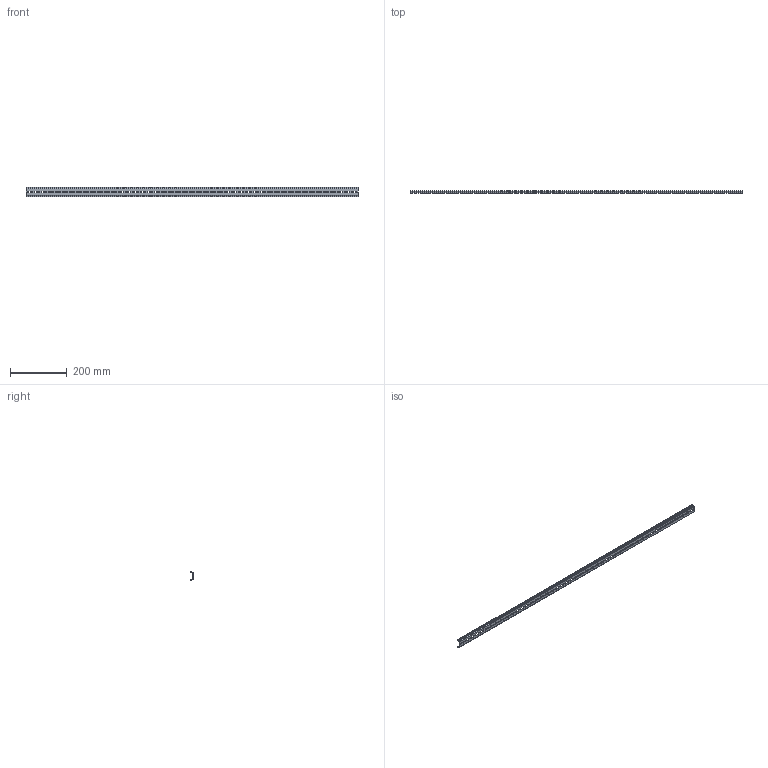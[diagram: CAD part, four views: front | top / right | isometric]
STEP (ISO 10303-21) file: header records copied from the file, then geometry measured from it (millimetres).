
FILE_DESCRIPTION (( 'STEP AP203' ), '1' );
FILE_NAME ('DIN 07.1175 DIN-ðåéêà.STEP', '2023-10-27T13:52:14', ( '' ), ( '' ), 'SwSTEP 2.0', 'SolidWorks 2019', '' );
FILE_SCHEMA (( 'CONFIG_CONTROL_DESIGN' ));
Length unit declared in the file: millimetre
Products named in the file (1): DIN 07.1175 DIN-ðåéêà
Bounding box: 1175 x 7.5 x 35 mm (x, y, z)
Volume: 57103.3 mm3; surface area: 100515.6 mm2
Topology: 1 solids, 1 shells, 226 faces, 640 edges, 416 vertices
Faces by surface type: plane 124, cylinder 102
Entity records: 7597 total; most frequent: DIRECTION 1298, CARTESIAN_POINT 1283, ORIENTED_EDGE 1280, EDGE_CURVE 640, VECTOR 436, LINE 436, AXIS2_PLACEMENT_3D 431, VERTEX_POINT 416
